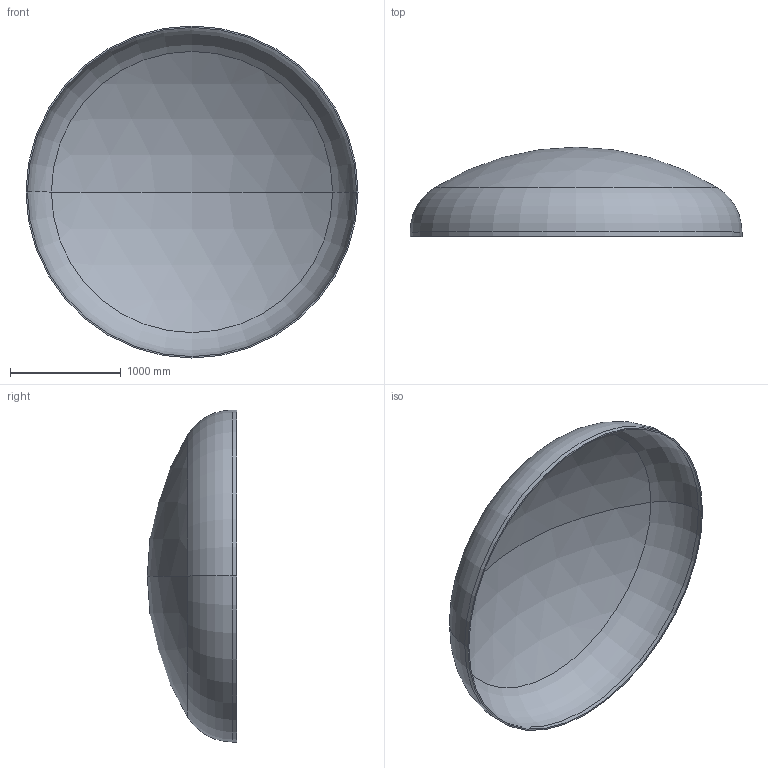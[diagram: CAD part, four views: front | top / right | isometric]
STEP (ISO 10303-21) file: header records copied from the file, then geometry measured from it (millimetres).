
FILE_DESCRIPTION (( 'STEP AP203' ), '1' );
FILE_NAME ('DIN 28013 Korbbogenform_-_Boden DIN 28013 - 3000 x 40 - I - s=13.step', '2016-07-01T17:30:06', ( '' ), ( '' ), 'SwSTEP 2.0', 'SolidWorks 2013', '' );
FILE_SCHEMA (( 'CONFIG_CONTROL_DESIGN' ));
Length unit declared in the file: millimetre
Products named in the file (1): DIN 28013 Korbbogenform_-_Boden DIN 28013 - 3000 x 40 - I - s=13
Bounding box: 3000 x 807.14 x 3000 mm (x, y, z)
Volume: 131320318.9 mm3; surface area: 20325463 mm2
Topology: 1 solids, 1 shells, 13 faces, 24 edges, 14 vertices
Faces by surface type: torus 4, cylinder 4, sphere 4, plane 1
Entity records: 407 total; most frequent: DIRECTION 72, CARTESIAN_POINT 52, ORIENTED_EDGE 48, AXIS2_PLACEMENT_3D 34, EDGE_CURVE 24, CIRCLE 20, EDGE_LOOP 14, VERTEX_POINT 14
